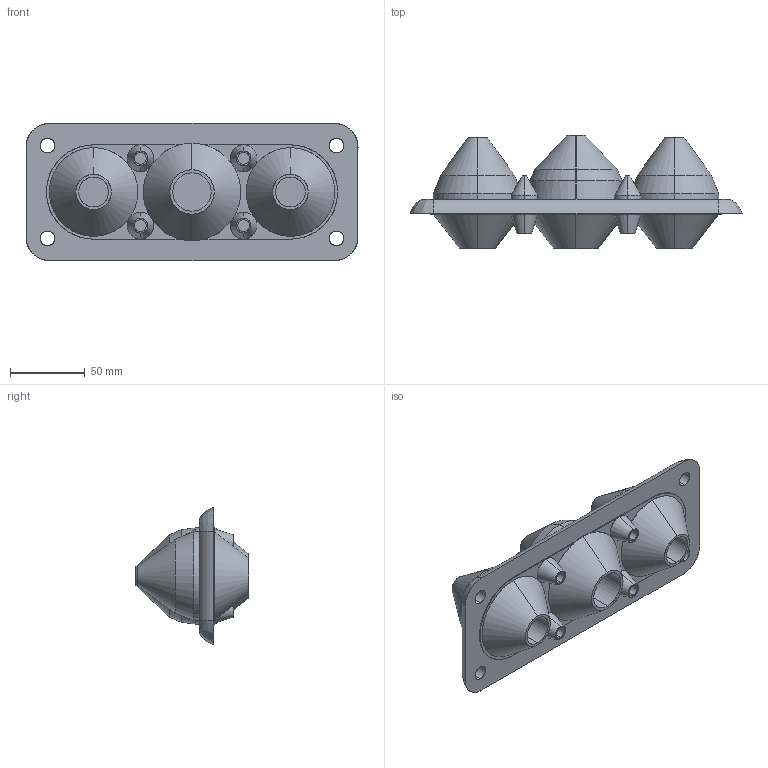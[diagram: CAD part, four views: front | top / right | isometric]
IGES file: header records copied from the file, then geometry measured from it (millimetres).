
Start section: SolidWorks IGES file using analytic representation for surfaces
Global section: file name: C:\Solidworks\omat tuotteet\Space charge models\Multigate\ip66 ip67\IGES\103577.IGS; native system: SolidWorks 2012; preprocessor: SolidWorks 2012; author: joni.lehtonen; date: 121204.101216; units: millimetre
Bounding box: 221.75 x 76 x 91.75 mm (x, y, z)
Surface area: 76406.1 mm2 (no closed solid volume)
Topology: 0 solids, 0 shells, 159 faces, 2905 edges, 2891 vertices
Faces by surface type: revolution 99, bspline 60
